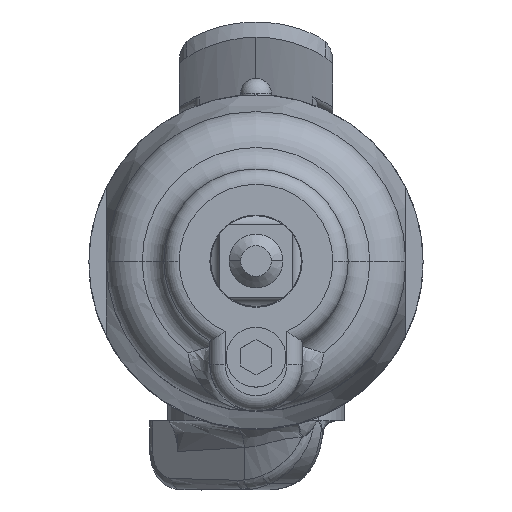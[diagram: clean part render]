
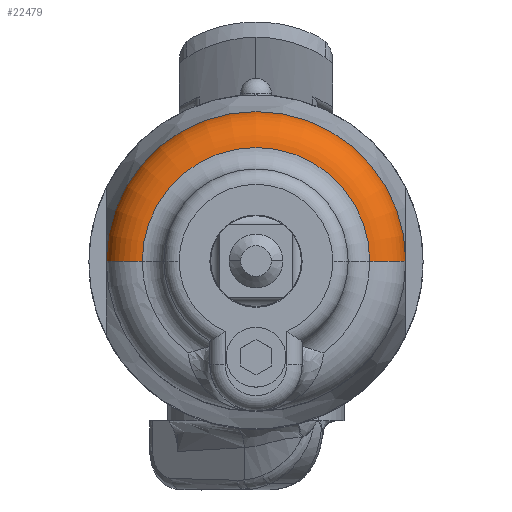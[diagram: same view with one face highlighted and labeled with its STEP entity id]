
A CAD part, top view. The second image highlights one B-rep face of the part: STEP entity #22479.
In plain terms, the highlighted toroidal (fillet/blend) face has major radius 14.5 mm and minor radius 5 mm.
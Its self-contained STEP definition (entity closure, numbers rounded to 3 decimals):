
#6652 = CARTESIAN_POINT ( 'NONE',  ( 19.5, 0., -13.984 ) ) ;
#6653 = DIRECTION ( 'NONE',  ( -1., 0., 0. ) ) ;
#6654 = DIRECTION ( 'NONE',  ( 0., 1., 0. ) ) ;
#6655 = CARTESIAN_POINT ( 'NONE',  ( 14.5, 0., -13.984 ) ) ;
#6656 = AXIS2_PLACEMENT_3D ( 'NONE', #6655, #6654, #6653 ) ;
#6657 = CIRCLE ( 'NONE', #6656, 5. ) ;
#6658 = CARTESIAN_POINT ( 'NONE',  ( -14.813, 0., -8.994 ) ) ;
#6659 = CARTESIAN_POINT ( 'NONE',  ( 14.813, 0., -8.994 ) ) ;
#6660 = DIRECTION ( 'NONE',  ( 1., 0., 0. ) ) ;
#6661 = DIRECTION ( 'NONE',  ( 0., 0., 1. ) ) ;
#6662 = CARTESIAN_POINT ( 'NONE',  ( 0., 0., -8.994 ) ) ;
#6663 = AXIS2_PLACEMENT_3D ( 'NONE', #6662, #6661, #6660 ) ;
#6664 = CIRCLE ( 'NONE', #6663, 14.812 ) ;
#6704 = DIRECTION ( 'NONE',  ( 0., 0., -1. ) ) ;
#6705 = DIRECTION ( 'NONE',  ( 0., -1., 0. ) ) ;
#6706 = CARTESIAN_POINT ( 'NONE',  ( -14.5, 0., -13.984 ) ) ;
#6707 = AXIS2_PLACEMENT_3D ( 'NONE', #6706, #6705, #6704 ) ;
#6708 = CIRCLE ( 'NONE', #6707, 5. ) ;
#6710 = CARTESIAN_POINT ( 'NONE',  ( -19.5, 0., -13.984 ) ) ;
#6711 = DIRECTION ( 'NONE',  ( -1., 0., 0. ) ) ;
#6712 = DIRECTION ( 'NONE',  ( 0., 0., -1. ) ) ;
#6713 = CARTESIAN_POINT ( 'NONE',  ( 0., 0., -13.984 ) ) ;
#6714 = AXIS2_PLACEMENT_3D ( 'NONE', #6713, #6712, #6711 ) ;
#6715 = CIRCLE ( 'NONE', #6714, 19.5 ) ;
#6716 = CARTESIAN_POINT ( 'NONE',  ( 0., 0., -13.984 ) ) ;
#6717 = AXIS2_PLACEMENT_3D ( 'NONE', #6716, #6741, #6739 ) ;
#6718 = TOROIDAL_SURFACE ( 'NONE', #6717, 14.5, 5. ) ;
#6739 = DIRECTION ( 'NONE',  ( -1., 0., 0. ) ) ;
#6741 = DIRECTION ( 'NONE',  ( 0., 0., -1. ) ) ;
#6743 = FACE_OUTER_BOUND ( 'NONE', #22450, .T. ) ;
#22450 = EDGE_LOOP ( 'NONE', ( #22451, #22455, #22458, #22461 ) ) ;
#22451 = ORIENTED_EDGE ( 'NONE', *, *, #22452, .F. ) ;
#22452 = EDGE_CURVE ( 'NONE', #22453, #22454, #6664, .T. ) ;
#22453 = VERTEX_POINT ( 'NONE', #6659 ) ;
#22454 = VERTEX_POINT ( 'NONE', #6658 ) ;
#22455 = ORIENTED_EDGE ( 'NONE', *, *, #22456, .T. ) ;
#22456 = EDGE_CURVE ( 'NONE', #22453, #22457, #6657, .T. ) ;
#22457 = VERTEX_POINT ( 'NONE', #6652 ) ;
#22458 = ORIENTED_EDGE ( 'NONE', *, *, #22459, .F. ) ;
#22459 = EDGE_CURVE ( 'NONE', #22460, #22457, #6715, .T. ) ;
#22460 = VERTEX_POINT ( 'NONE', #6710 ) ;
#22461 = ORIENTED_EDGE ( 'NONE', *, *, #22462, .F. ) ;
#22462 = EDGE_CURVE ( 'NONE', #22454, #22460, #6708, .T. ) ;
#22479 = ADVANCED_FACE ( 'NONE', ( #6743 ), #6718, .T. ) ;
